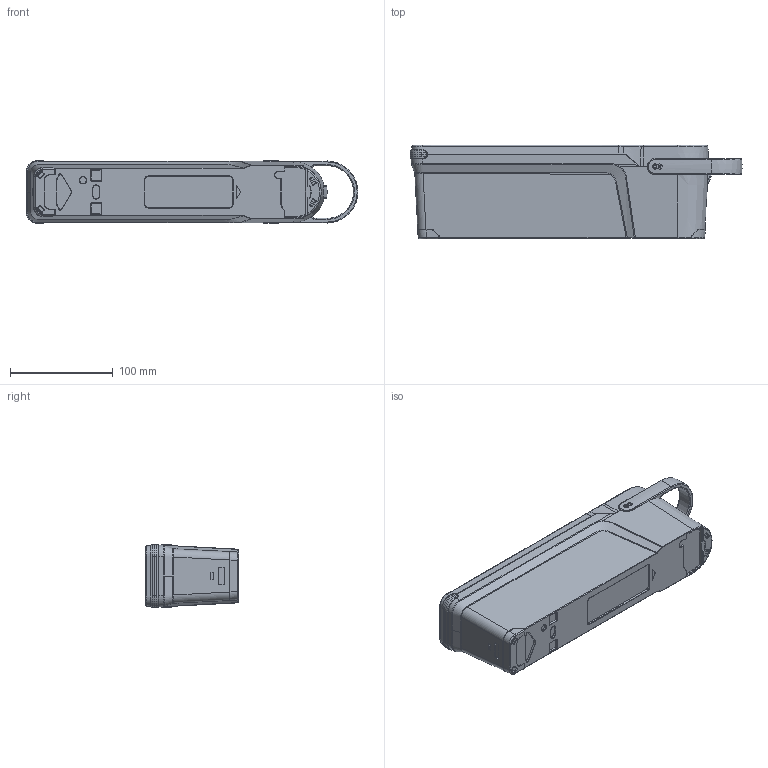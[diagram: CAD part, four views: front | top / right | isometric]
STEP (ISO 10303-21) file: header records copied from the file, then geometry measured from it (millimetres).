
FILE_DESCRIPTION (( 'STEP AP203' ), '1' );
FILE_NAME ('QikPak Personal Battery Bank 2.STEP', '2021-05-14T15:32:40', ( '' ), ( '' ), 'SwSTEP 2.0', 'SolidWorks 2021', '' );
FILE_SCHEMA (( 'CONFIG_CONTROL_DESIGN' ));
Products named in the file (1): QikPak Personal Battery Bank 2
Bounding box: 323.52 x 91.28 x 61.27 mm (x, y, z)
Volume: 1337488.5 mm3; surface area: 102747.4 mm2
Topology: 1 solids, 8 shells, 2145 faces, 5508 edges, 3420 vertices
Faces by surface type: plane 736, bspline 567, cylinder 562, torus 132, cone 119, sphere 29
Entity records: 81855 total; most frequent: CARTESIAN_POINT 35686, ORIENTED_EDGE 10860, DIRECTION 7950, EDGE_CURVE 5430, VERTEX_POINT 3396, AXIS2_PLACEMENT_3D 2741, VECTOR 2468, LINE 2468
